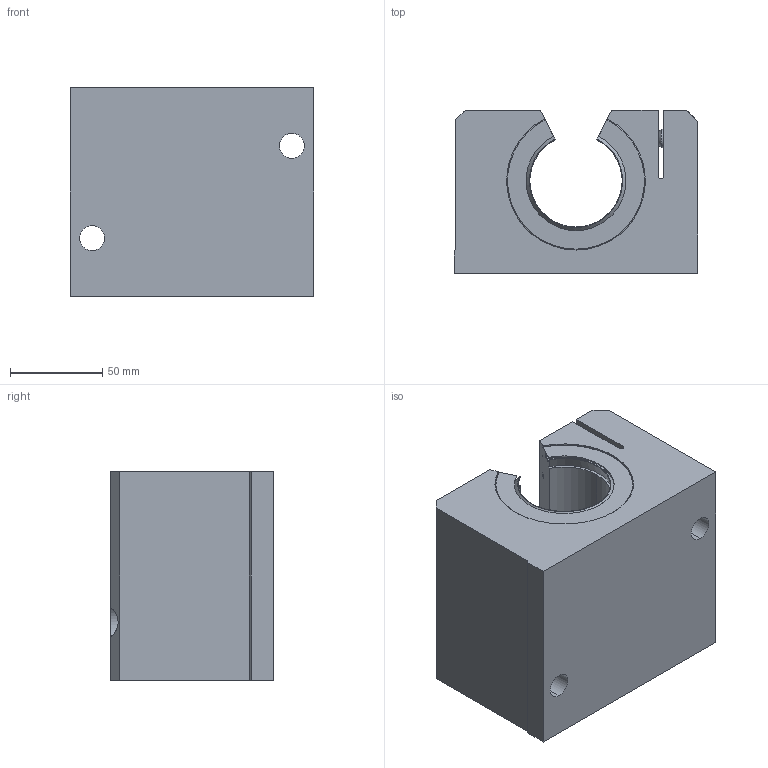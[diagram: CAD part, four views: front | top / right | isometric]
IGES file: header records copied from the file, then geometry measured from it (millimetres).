
Start section: 3D InterOp IGES (Version 21 0 1), Spatial Corp. Copyright (c) 1999-2007.
Global section: file name: SLS-50-OP.igs; native system: Spatial Corp.; preprocessor: 3D InterOp GENERIC/IGES 3.0; author: Noname; organization: Noname; date: 20220310.163611; units: millimetre
Bounding box: 132 x 88 x 113 mm (x, y, z)
Surface area: 107726.7 mm2 (no closed solid volume)
Topology: 0 solids, 0 shells, 144 faces, 774 edges, 768 vertices
Faces by surface type: revolution 97, extrusion 47
